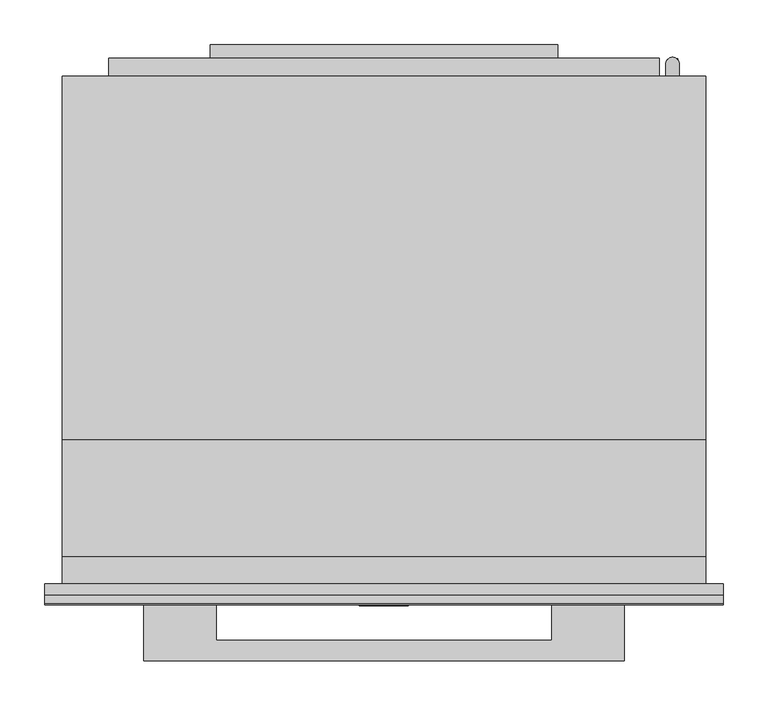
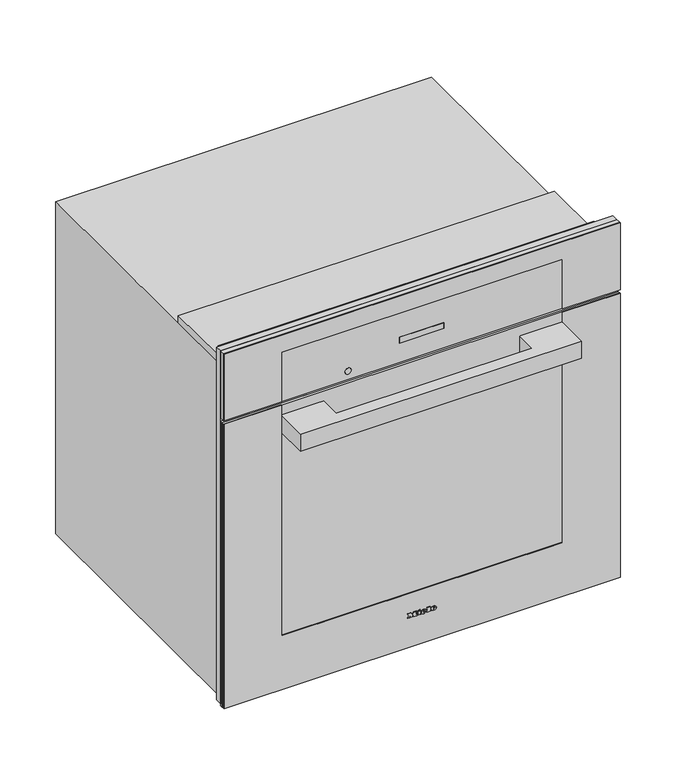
"""IFC4 building model written with IfcOpenShell, lengths in millimetres: proxy geometry, 11805340_USA_H7180BP_EDST-CLST : 22718045_USA_11805340_H7180BP_EDST-CLST."""

from ifc_helpers import new_model, si_unit, point, frame, frame_2d, origin, place, context, project, spatial, polyline, circle_curve, ellipse_curve, trimmed, segment, composite_curve, outline, extrude, faceted_brep, source, transform, mapped, element, save
from ifc_brep_helpers import plane_surface, cylinder_surface, revolved_surface, extruded_surface, advanced_brep


def specialty_equipment_10852f7c(model_context):
    return source(origin(), model_context, "Body", "SolidModel", [
        advanced_brep(
        [(21.28, -24.3, 73.133), (21.28, -24.3, 74.042), (27.301, -24.3, 74.042), (16.825, -24.3, 74.042), (19.3, -24.3, 71.0), (27.148, -24.3, 73.133), (24.43, -24.3, 73.133), (22.288, -24.3, 72.125), (21.28, -24.3, 75.194), (21.28, -24.3, 76.175), (22.819, -24.3, 76.175), (22.819, -24.3, 75.194), (21.28, -23.3, 73.133), (22.288, -23.3, 72.125), (24.43, -23.3, 73.133), (27.148, -23.3, 73.133), (19.3, -23.3, 71.0), (16.825, -23.3, 74.042), (27.301, -23.3, 74.042), (21.28, -23.3, 74.042), (21.28, -23.3, 75.194), (22.819, -23.3, 75.194), (22.819, -23.3, 76.175), (21.28, -23.3, 76.175)],
        [
            (0, 1),
            (1, 2),
            (2, 3, ellipse_curve(frame((22.063, -24.3, 74.042), z_axis=(0.0, -1.0, 0.0), x_axis=(-1.0, 0.0, 0.0)), 5.238, 4.329)),
            (3, 4, circle_curve(frame((20.3080491, -24.3, 74.348), z_axis=(0.0, -1.0, 0.0), x_axis=(0.0, 0.0, -1.0)), 3.4964649)),
            (4, 5, circle_curve(frame((21.9581428, -24.3, 76.724), z_axis=(0.0, -1.0, 0.0), x_axis=(0.0, 0.0, -1.0)), 6.3110933)),
            (5, 6),
            (6, 7, circle_curve(frame((22.7279412, -24.3, 73.97), z_axis=(0.0, 1.0, 0.0), x_axis=(0.0, 0.0, -1.0)), 1.896727)),
            (7, 0, circle_curve(frame((22.288, -24.3, 73.133), z_axis=(0.0, 1.0, 0.0), x_axis=(0.0, 0.0, -1.0)), 1.008)),
            (8, 9),
            (9, 10, circle_curve(frame((22.0495, -24.3, 76.175), z_axis=(0.0, 1.0, 0.0), x_axis=(0.0, 0.0, -1.0)), 0.7695)),
            (10, 11),
            (11, 8),
            (12, 13, circle_curve(frame((22.288, -23.3, 73.133), z_axis=(0.0, -1.0, 0.0), x_axis=(0.0, 0.0, -1.0)), 1.008)),
            (13, 14, circle_curve(frame((22.7279412, -23.3, 73.97), z_axis=(0.0, -1.0, 0.0), x_axis=(0.0, 0.0, -1.0)), 1.896727)),
            (14, 15),
            (15, 16, circle_curve(frame((21.9581428, -23.3, 76.724), z_axis=(0.0, 1.0, 0.0), x_axis=(0.0, 0.0, -1.0)), 6.3110933)),
            (16, 17, circle_curve(frame((20.3080491, -23.3, 74.348), z_axis=(0.0, 1.0, 0.0), x_axis=(0.0, 0.0, -1.0)), 3.4964649)),
            (17, 18, ellipse_curve(frame((22.063, -23.3, 74.042), z_axis=(0.0, 1.0, 0.0), x_axis=(-1.0, 0.0, 0.0)), 5.238, 4.329)),
            (18, 19),
            (19, 12),
            (20, 21),
            (21, 22),
            (22, 23, circle_curve(frame((22.0495, -23.3, 76.175), z_axis=(0.0, -1.0, 0.0), x_axis=(0.0, 0.0, -1.0)), 0.7695)),
            (23, 20),
            (0, 12),
            (19, 1),
            (18, 2),
            (5, 15),
            (14, 6),
            (17, 3),
            (13, 7),
            (16, 4),
            (8, 20),
            (23, 9),
            (22, 10),
            (21, 11),
        ],
        [
            plane_surface(frame((21.28, -24.3, 74.042), z_axis=(0.0, -1.0, 0.0), x_axis=(0.0, 0.0, 1.0))),
            plane_surface(frame((21.28, -23.3, 74.042), z_axis=(0.0, 1.0, 0.0), x_axis=(0.0, 0.0, -1.0))),
            plane_surface(frame((21.28, -24.3, 73.133), z_axis=(1.0, 0.0, 0.0), x_axis=(0.0, 1.0, 0.0))),
            plane_surface(frame((21.28, -24.3, 74.042), z_axis=(0.0, 0.0, -1.0), x_axis=(0.0, 1.0, 0.0))),
            plane_surface(frame((27.148, -24.3, 73.133), z_axis=(0.0, 0.0, 1.0), x_axis=(0.0, 1.0, 0.0))),
            extruded_surface(trimmed(ellipse_curve(frame((22.063, -22.3, 74.042), z_axis=(0.0, -1.0, 0.0), x_axis=(-1.0, 0.0, 0.0)), 5.238, 4.329), [point((27.301, -22.3, 74.042))], [point((16.825, -22.3, 74.042))], True, "CARTESIAN"), (0.0, -1.0, 0.0), 1.0),
            revolved_surface(polyline([(22.7279412, -23.3, 72.073273), (22.7279412, -24.3, 72.073273)]), (22.7279412, -23.3, 73.97), (0.0, 1.0, 0.0)),
            revolved_surface(polyline([(22.288, -23.3, 72.125), (22.288, -24.3, 72.125)]), (22.288, -23.3, 73.133), (0.0, 1.0, 0.0)),
            cylinder_surface(frame((20.3080491, -23.3, 74.348), z_axis=(0.0, -1.0, 0.0), x_axis=(0.0, 0.0, -1.0)), 3.4964649),
            cylinder_surface(frame((21.9581428, -23.3, 76.724), z_axis=(0.0, -1.0, 0.0), x_axis=(0.0, 0.0, -1.0)), 6.3110933),
            plane_surface(frame((21.28, -24.3, 75.194), z_axis=(1.0, 0.0, 0.0), x_axis=(0.0, 1.0, 0.0))),
            revolved_surface(polyline([(22.0495, -23.3, 75.4055), (22.0495, -24.3, 75.4055)]), (22.0495, -23.3, 76.175), (0.0, 1.0, 0.0)),
            plane_surface(frame((22.819, -24.3, 76.175), z_axis=(-1.0, 0.0, 0.0), x_axis=(0.0, 1.0, 0.0))),
            plane_surface(frame((22.819, -24.3, 75.194), z_axis=(0.0, 0.0, 1.0), x_axis=(0.0, 1.0, 0.0))),
        ],
        [
            (0, [[1, 2, 3, 4, 5, 6, 7, 8], [9, 10, 11, 12]]),
            (1, [[13, 14, 15, 16, 17, 18, 19, 20], [21, 22, 23, 24]]),
            (2, [[-1, 25, -20, 26]]),
            (3, [[-2, -26, -19, 27]]),
            (4, [[-6, 28, -15, 29]]),
            (5, [[-3, -27, -18, 30]]),
            (6, [[-7, -29, -14, 31]]),
            (7, [[-8, -31, -13, -25]]),
            (8, [[-4, -30, -17, 32]]),
            (9, [[-5, -32, -16, -28]]),
            (10, [[-9, 33, -24, 34]]),
            (11, [[-10, -34, -23, 35]]),
            (12, [[-11, -35, -22, 36]]),
            (13, [[-12, -36, -21, -33]]),
        ],
    ),
        advanced_brep(
        [(2.497, -24.3, 73.133), (2.497, -24.3, 74.042), (8.518, -24.3, 74.042), (-1.958, -24.3, 74.042), (0.517, -24.3, 71.0), (8.365, -24.3, 73.133), (5.647, -24.3, 73.133), (3.505, -24.3, 72.125), (2.497, -24.3, 75.194), (2.497, -24.3, 76.175), (4.036, -24.3, 76.175), (4.036, -24.3, 75.194), (2.497, -23.3, 73.133), (3.505, -23.3, 72.125), (5.647, -23.3, 73.133), (8.365, -23.3, 73.133), (0.517, -23.3, 71.0), (-1.958, -23.3, 74.042), (8.518, -23.3, 74.042), (2.497, -23.3, 74.042), (2.497, -23.3, 75.194), (4.036, -23.3, 75.194), (4.036, -23.3, 76.175), (2.497, -23.3, 76.175)],
        [
            (0, 1),
            (1, 2),
            (2, 3, ellipse_curve(frame((3.28, -24.3, 74.042), z_axis=(0.0, -1.0, 0.0), x_axis=(-1.0, 0.0, 0.0)), 5.238, 4.329)),
            (3, 4, circle_curve(frame((1.5250491, -24.3, 74.348), z_axis=(0.0, -1.0, 0.0), x_axis=(0.0, 0.0, -1.0)), 3.4964649)),
            (4, 5, circle_curve(frame((3.1751428, -24.3, 76.724), z_axis=(0.0, -1.0, 0.0), x_axis=(0.0, 0.0, -1.0)), 6.3110933)),
            (5, 6),
            (6, 7, circle_curve(frame((3.9449412, -24.3, 73.97), z_axis=(0.0, 1.0, 0.0), x_axis=(0.0, 0.0, -1.0)), 1.896727)),
            (7, 0, circle_curve(frame((3.505, -24.3, 73.133), z_axis=(0.0, 1.0, 0.0), x_axis=(0.0, 0.0, -1.0)), 1.008)),
            (8, 9),
            (9, 10, circle_curve(frame((3.2665, -24.3, 76.175), z_axis=(0.0, 1.0, 0.0), x_axis=(0.0, 0.0, -1.0)), 0.7695)),
            (10, 11),
            (11, 8),
            (12, 13, circle_curve(frame((3.505, -23.3, 73.133), z_axis=(0.0, -1.0, 0.0), x_axis=(0.0, 0.0, -1.0)), 1.008)),
            (13, 14, circle_curve(frame((3.9449412, -23.3, 73.97), z_axis=(0.0, -1.0, 0.0), x_axis=(0.0, 0.0, -1.0)), 1.896727)),
            (14, 15),
            (15, 16, circle_curve(frame((3.1751428, -23.3, 76.724), z_axis=(0.0, 1.0, 0.0), x_axis=(0.0, 0.0, -1.0)), 6.3110933)),
            (16, 17, circle_curve(frame((1.5250491, -23.3, 74.348), z_axis=(0.0, 1.0, 0.0), x_axis=(0.0, 0.0, -1.0)), 3.4964649)),
            (17, 18, ellipse_curve(frame((3.28, -23.3, 74.042), z_axis=(0.0, 1.0, 0.0), x_axis=(-1.0, 0.0, 0.0)), 5.238, 4.329)),
            (18, 19),
            (19, 12),
            (20, 21),
            (21, 22),
            (22, 23, circle_curve(frame((3.2665, -23.3, 76.175), z_axis=(0.0, -1.0, 0.0), x_axis=(0.0, 0.0, -1.0)), 0.7695)),
            (23, 20),
            (0, 12),
            (19, 1),
            (18, 2),
            (5, 15),
            (14, 6),
            (17, 3),
            (13, 7),
            (16, 4),
            (8, 20),
            (23, 9),
            (22, 10),
            (21, 11),
        ],
        [
            plane_surface(frame((2.497, -24.3, 74.042), z_axis=(0.0, -1.0, 0.0), x_axis=(0.0, 0.0, 1.0))),
            plane_surface(frame((2.497, -23.3, 74.042), z_axis=(0.0, 1.0, 0.0), x_axis=(0.0, 0.0, -1.0))),
            plane_surface(frame((2.497, -24.3, 73.133), z_axis=(1.0, 0.0, 0.0), x_axis=(0.0, 1.0, 0.0))),
            plane_surface(frame((2.497, -24.3, 74.042), z_axis=(0.0, 0.0, -1.0), x_axis=(0.0, 1.0, 0.0))),
            plane_surface(frame((8.365, -24.3, 73.133), z_axis=(0.0, 0.0, 1.0), x_axis=(0.0, 1.0, 0.0))),
            extruded_surface(trimmed(ellipse_curve(frame((3.28, -22.3, 74.042), z_axis=(0.0, -1.0, 0.0), x_axis=(-1.0, 0.0, 0.0)), 5.238, 4.329), [point((8.518, -22.3, 74.042))], [point((-1.958, -22.3, 74.042))], True, "CARTESIAN"), (0.0, -1.0, 0.0), 1.0),
            revolved_surface(polyline([(3.9449412, -23.3, 72.073273), (3.9449412, -24.3, 72.073273)]), (3.9449412, -23.3, 73.97), (0.0, 1.0, 0.0)),
            revolved_surface(polyline([(3.505, -23.3, 72.125), (3.505, -24.3, 72.125)]), (3.505, -23.3, 73.133), (0.0, 1.0, 0.0)),
            cylinder_surface(frame((1.5250491, -23.3, 74.348), z_axis=(0.0, -1.0, 0.0), x_axis=(0.0, 0.0, -1.0)), 3.4964649),
            cylinder_surface(frame((3.1751428, -23.3, 76.724), z_axis=(0.0, -1.0, 0.0), x_axis=(0.0, 0.0, -1.0)), 6.3110933),
            plane_surface(frame((2.497, -24.3, 75.194), z_axis=(1.0, 0.0, 0.0), x_axis=(0.0, 1.0, 0.0))),
            revolved_surface(polyline([(3.2665, -23.3, 75.4055), (3.2665, -24.3, 75.4055)]), (3.2665, -23.3, 76.175), (0.0, 1.0, 0.0)),
            plane_surface(frame((4.036, -24.3, 76.175), z_axis=(-1.0, 0.0, 0.0), x_axis=(0.0, 1.0, 0.0))),
            plane_surface(frame((4.036, -24.3, 75.194), z_axis=(0.0, 0.0, 1.0), x_axis=(0.0, 1.0, 0.0))),
        ],
        [
            (0, [[1, 2, 3, 4, 5, 6, 7, 8], [9, 10, 11, 12]]),
            (1, [[13, 14, 15, 16, 17, 18, 19, 20], [21, 22, 23, 24]]),
            (2, [[-1, 25, -20, 26]]),
            (3, [[-2, -26, -19, 27]]),
            (4, [[-6, 28, -15, 29]]),
            (5, [[-3, -27, -18, 30]]),
            (6, [[-7, -29, -14, 31]]),
            (7, [[-8, -31, -13, -25]]),
            (8, [[-4, -30, -17, 32]]),
            (9, [[-5, -32, -16, -28]]),
            (10, [[-9, 33, -24, 34]]),
            (11, [[-10, -34, -23, 35]]),
            (12, [[-11, -35, -22, 36]]),
            (13, [[-12, -36, -21, -33]]),
        ],
    ),
        extrude(outline(polyline([(79.469, -7.34), (78.011, -6.656), (79.433, -3.605), (80.891, -4.28), (79.469, -7.34)])), frame((0.0, -24.3, 0.0), z_axis=(0.0, 1.0, 0.0), x_axis=(0.0, 0.0, 1.0)), (0.0, 0.0, 1.0), 1.0),
        extrude(outline(polyline([(77.813, -9.563), (76.202, -9.563), (76.202, -8.492), (72.512, -8.492), (72.512, -9.563), (71.0, -9.563), (71.0, -2.462), (72.512, -2.462), (72.512, -3.506), (77.813, -3.506), (77.813, -9.563)])), frame((0.0, -24.3, 0.0), z_axis=(0.0, 1.0, 0.0), x_axis=(0.0, 0.0, 1.0)), (0.0, 0.0, 1.0), 1.0),
        extrude(outline(polyline([(78.533, 9.022), (78.533, 10.102), (72.512, 10.102), (72.512, 9.022), (71.0, 9.022), (71.0, 16.321), (72.512, 16.321), (72.512, 15.214), (80.0, 15.214), (80.0, 9.022), (78.533, 9.022)])), frame((0.0, -24.3, 0.0), z_axis=(0.0, 1.0, 0.0), x_axis=(0.0, 0.0, 1.0)), (0.0, 0.0, 1.0), 1.0),
        extrude(outline(polyline([(78.533, -27.5), (78.533, -26.411), (72.512, -26.411), (72.512, -27.5), (71.0, -27.5), (71.0, -23.54), (72.512, -23.54), (72.512, -24.62), (76.3341247, -24.62), (71.0, -20.597), (76.4402223, -16.556), (72.512, -16.556), (72.512, -17.663), (71.0, -17.663), (71.0, -10.481), (72.512, -10.481), (72.512, -11.624), (78.533, -11.624), (78.533, -10.481), (80.0, -10.481), (80.0, -15.962), (76.625, -18.59), (80.0, -21.227), (80.0, -27.5), (78.533, -27.5)])), frame((0.0, -24.3, 0.0), z_axis=(0.0, 1.0, 0.0), x_axis=(0.0, 0.0, 1.0)), (0.0, 0.0, 1.0), 1.0),
        extrude(outline(polyline([(585.0, -268.5), (585.0, -378.5), (11.0, -378.5), (11.0, 378.5), (585.0, 378.5), (585.0, 268.5), (120.0, 268.5), (120.0, -268.5), (585.0, -268.5)])), frame((0.0, -23.3, 0.0), z_axis=(0.0, 1.0, 0.0), x_axis=(0.0, 0.0, 1.0)), (0.0, 0.0, 1.0), 1.3),
        extrude(outline(polyline([(378.5, -22.0), (-378.5, -22.0), (-378.5, -18.0), (378.5, -18.0), (378.5, -22.0)])), frame((0.0, 0.0, 11.0), z_axis=(0.0, 0.0, 1.0), x_axis=(1.0, 0.0, 0.0)), (0.0, 0.0, 1.0), 574.0),
        extrude(outline(polyline([(-187.0, -22.0), (-187.0, -63.0), (187.0, -63.0), (187.0, -22.0), (268.0, -22.0), (268.0, -86.0), (-268.0, -86.0), (-268.0, -22.0), (-187.0, -22.0)])), frame((0.0, 0.0, 530.0), z_axis=(0.0, 0.0, 1.0), x_axis=(1.0, 0.0, 0.0)), (0.0, 0.0, 1.0), 35.0),
        extrude(outline(polyline([(378.5, -18.0), (-378.5, -18.0), (-378.5, -13.0), (378.5, -13.0), (378.5, -18.0)])), frame((0.0, 0.0, 11.0), z_axis=(0.0, 0.0, 1.0), x_axis=(1.0, 0.0, 0.0)), (0.0, 0.0, 1.0), 574.0),
        extrude(outline(polyline([(-250.5, -18.0), (250.5, -18.0), (250.5, -22.0), (-250.5, -22.0), (-250.5, -18.0)])), frame((0.0, 0.0, 150.0), z_axis=(0.0, 0.0, 1.0), x_axis=(1.0, 0.0, 0.0)), (0.0, 0.0, 1.0), 344.0),
        extrude(outline(polyline([(727.0, -378.5), (592.0, -378.5), (592.0, -268.5), (692.0, -268.5), (692.0, 268.5), (592.0, 268.5), (592.0, 378.5), (727.0, 378.5), (727.0, -378.5)])), frame((0.0, -23.3, 0.0), z_axis=(0.0, 1.0, 0.0), x_axis=(0.0, 0.0, 1.0)), (0.0, 0.0, 1.0), 1.3),
        extrude(outline(polyline([(-42.5, -21.0), (42.5, -21.0), (42.5, -22.0), (-42.5, -22.0), (-42.5, -21.0)])), frame((0.0, 0.0, 630.5), z_axis=(0.0, 0.0, 1.0), x_axis=(1.0, 0.0, 0.0)), (0.0, 0.0, 1.0), 12.0),
        faceted_brep([(378.5, -22.0, 727.0), (-378.5, -22.0, 727.0), (-378.5, -22.0, 592.0), (378.5, -22.0, 592.0), (42.5, -22.0, 642.5), (42.5, -22.0, 630.5), (-42.5, -22.0, 630.5), (-42.5, -22.0, 642.5), (378.5, -13.0, 727.0), (378.5, -13.0, 592.0), (-378.5, -13.0, 592.0), (-378.5, -13.0, 727.0), (42.5, -21.0, 642.5), (-42.5, -21.0, 642.5), (-42.5, -21.0, 630.5), (42.5, -21.0, 630.5)], [[[0, 1, 2, 3], [4, 5, 6, 7]], [[8, 9, 10, 11]], [[1, 0, 8, 11]], [[2, 1, 11, 10]], [[3, 2, 10, 9]], [[0, 3, 9, 8]], [[12, 13, 14, 15]], [[12, 15, 5, 4]], [[15, 14, 6, 5]], [[14, 13, 7, 6]], [[13, 12, 4, 7]]]),
        extrude(outline(composite_curve([segment(trimmed(circle_curve(frame_2d((609.0, -140.5745637)), 6.0), [point((609.0, -146.5745637))], [point((609.0, -134.5745637))], False, "CARTESIAN"), True, "CONTINUOUS"), segment(trimmed(circle_curve(frame_2d((609.0, -140.5745637)), 6.0), [point((609.0, -134.5745637))], [point((609.0, -146.5745637))], False, "CARTESIAN"), True, "CONTINUOUS")], self_intersect=False)), frame((0.0, -22.5, 0.0), z_axis=(0.0, 1.0, 0.0), x_axis=(0.0, 0.0, 1.0)), (0.0, 0.0, 1.0), 1.0),
        extrude(outline(polyline([(327.856335, 586.4164958), (327.856335, 576.4164958), (322.0, 576.4164958), (322.0, 577.4164958), (326.856335, 577.4164958), (326.856335, 580.9164958), (323.9061855, 580.9164958), (323.9061855, 581.9164958), (326.856335, 581.9164958), (326.856335, 585.4164958), (322.0, 585.4164958), (322.0, 586.4164958), (327.856335, 586.4164958)])), frame((0.0, 0.0, 585.0), z_axis=(0.0, 0.0, 1.0), x_axis=(1.0, 0.0, 0.0)), (0.0, 0.0, 1.0), 1.0),
        extrude(outline(polyline([(320.5, 576.4164958), (315.5, 576.4164958), (315.5, 577.4164958), (319.3952098, 577.4164958), (319.3952098, 586.4164958), (320.5, 586.4164958), (320.5, 576.4164958)])), frame((0.0, 0.0, 585.0), z_axis=(0.0, 0.0, 1.0), x_axis=(1.0, 0.0, 0.0)), (0.0, 0.0, 1.0), 1.0),
        advanced_brep(
        [(329.5, 567.0, 616.0), (314.5, 567.0, 616.0), (329.5, 580.5, 616.0), (314.5, 580.5, 616.0), (329.5, 580.5, 586.0), (314.5, 580.5, 586.0)],
        [
            (0, 1, circle_curve(frame((322.0, 567.0, 616.0), z_axis=(0.0, -1.0, 0.0), x_axis=(-1.0, 0.0, 0.0)), 7.5)),
            (1, 0, circle_curve(frame((322.0, 567.0, 616.0), z_axis=(0.0, -1.0, 0.0), x_axis=(-1.0, 0.0, 0.0)), 7.5)),
            (0, 2),
            (2, 3, ellipse_curve(frame((322.0, 580.5, 616.0), z_axis=(0.0, -0.7071067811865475, 0.7071067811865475), x_axis=(0.0, -0.7071067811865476, -0.7071067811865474)), 10.6066017, 7.5)),
            (3, 1),
            (3, 2, ellipse_curve(frame((322.0, 580.5, 616.0), z_axis=(0.0, -0.7071067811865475, 0.7071067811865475), x_axis=(0.0, -0.7071067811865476, -0.7071067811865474)), 10.6066017, 7.5)),
            (4, 5, circle_curve(frame((322.0, 580.5, 586.0), z_axis=(0.0, 0.0, -1.0), x_axis=(-1.0, 0.0, 0.0)), 7.5)),
            (5, 4, circle_curve(frame((322.0, 580.5, 586.0), z_axis=(0.0, 0.0, -1.0), x_axis=(-1.0, 0.0, 0.0)), 7.5)),
            (2, 4),
            (5, 3),
        ],
        [
            plane_surface(frame((322.0, 567.0, 616.0), z_axis=(0.0, -1.0, 0.0), x_axis=(-1.0, 0.0, 0.0))),
            cylinder_surface(frame((322.0, 567.0, 616.0), z_axis=(0.0, -1.0, 0.0), x_axis=(-1.0, 0.0, 0.0)), 7.5),
            plane_surface(frame((322.0, 580.5, 586.0), z_axis=(0.0, 0.0, -1.0), x_axis=(-1.0, 0.0, 0.0))),
            cylinder_surface(frame((322.0, 580.5, 616.0), z_axis=(0.0, 0.0, 1.0), x_axis=(-1.0, 0.0, 0.0)), 7.5),
        ],
        [
            (0, [[1, 2]]),
            (1, [[-1, 3, 4, 5]]),
            (1, [[-2, -5, 6, -3]]),
            (2, [[7, 8]]),
            (3, [[-4, 9, -8, 10]]),
            (3, [[-6, -10, -7, -9]]),
        ],
    ),
        faceted_brep([(353.5, 25.0, 593.0), (-353.5, 25.0, 593.0), (-353.5, 25.0, 15.0), (353.5, 25.0, 15.0), (-312.5, 25.0, 526.0), (312.5, 25.0, 526.0), (312.5, 25.0, 103.0), (-312.5, 25.0, 103.0), (353.5, 0.0, 593.0), (-353.5, 0.0, 593.0), (-353.5, 0.0, 15.0), (353.5, 0.0, 15.0), (359.0, 0.0, 670.0), (359.0, 0.0, 0.0), (359.0, 567.0, 0.0), (359.0, 567.0, 670.0), (-359.0, 0.0, 0.0), (-359.0, 0.0, 670.0), (-359.0, 567.0, 670.0), (-359.0, 567.0, 0.0), (-307.0, 567.0, 0.0), (-307.0, 587.0, 0.0), (307.0, 587.0, 0.0), (307.0, 567.0, 0.0), (-307.0, 587.0, 584.0), (307.0, 587.0, 584.0), (312.5, 433.0, 526.0), (-312.5, 433.0, 526.0), (-312.5, 433.0, 103.0), (312.5, 433.0, 103.0), (-307.0, 567.0, 584.0), (307.0, 567.0, 584.0)], [[[0, 1, 2, 3], [4, 5, 6, 7]], [[1, 0, 8, 9]], [[2, 1, 9, 10]], [[0, 3, 11, 8]], [[12, 13, 14, 15]], [[16, 17, 18, 19]], [[13, 16, 19, 20, 21, 22, 23, 14]], [[22, 21, 24, 25]], [[17, 12, 15, 18]], [[16, 13, 12, 17], [9, 8, 11, 10]], [[26, 27, 28, 29]], [[27, 26, 5, 4]], [[28, 27, 4, 7]], [[29, 28, 7, 6]], [[26, 29, 6, 5]], [[3, 2, 10, 11]], [[25, 24, 30, 31]], [[20, 30, 24, 21]], [[14, 23, 31, 30, 20, 19, 18, 15]], [[31, 23, 22, 25]]]),
        extrude(outline(polyline([(-194.0, 602.0), (194.0, 602.0), (194.0, 587.0), (-194.0, 587.0), (-194.0, 602.0)])), frame((0.0, 0.0, 230.0), z_axis=(0.0, 0.0, 1.0), x_axis=(1.0, 0.0, 0.0)), (0.0, 0.0, 1.0), 158.0),
        extrude(outline(polyline([(30.0, 705.0), (30.0, 686.0), (161.0, 686.0), (161.0, 670.0), (0.0, 670.0), (0.0, 705.0), (30.0, 705.0)])), frame((-359.0, 0.0, 0.0), z_axis=(1.0, 0.0, 0.0), x_axis=(0.0, 1.0, 0.0)), (0.0, 0.0, 1.0), 718.0),
        extrude(outline(polyline([(15.0, 378.5), (727.0, 378.5), (727.0, -378.5), (15.0, -378.5), (15.0, -353.5), (593.0, -353.5), (593.0, 353.5), (15.0, 353.5), (15.0, 378.5)])), frame((0.0, -13.0, 0.0), z_axis=(0.0, 1.0, 0.0), x_axis=(0.0, 0.0, 1.0)), (0.0, 0.0, 1.0), 13.0),
    ])


if __name__ == "__main__":
    model = new_model("IFC4")
    model_context = context("Model", 3, world=origin())
    ifc_project = project(units=[si_unit("LENGTHUNIT", "METRE", prefix="MILLI")], contexts=[model_context])
    site = spatial("IfcSite", under=ifc_project)
    building = spatial("IfcBuilding", under=site)
    placement = place(None, origin())
    specialty_equipment_shape = specialty_equipment_10852f7c(model_context)
    element("IfcBuildingElementProxy", 1, Name="11805340_USA_H7180BP_EDST-CLST : 22718045_USA_11805340_H7180BP_EDST-CLST", ObjectType="11805340_USA_H7180BP_EDST-CLST : 22718045_USA_11805340_H7180BP_EDST-CLST", at=placement, inside=building, context=model_context, shape_type="MappedRepresentation", body=[
        mapped(specialty_equipment_shape, transform((0.0, 0.0, 0.0), x_axis=(1.0, 0.0, 0.0), y_axis=(0.0, 1.0, 0.0), z_axis=(0.0, 0.0, 1.0))),
    ])
    save(model, "model.ifc")
